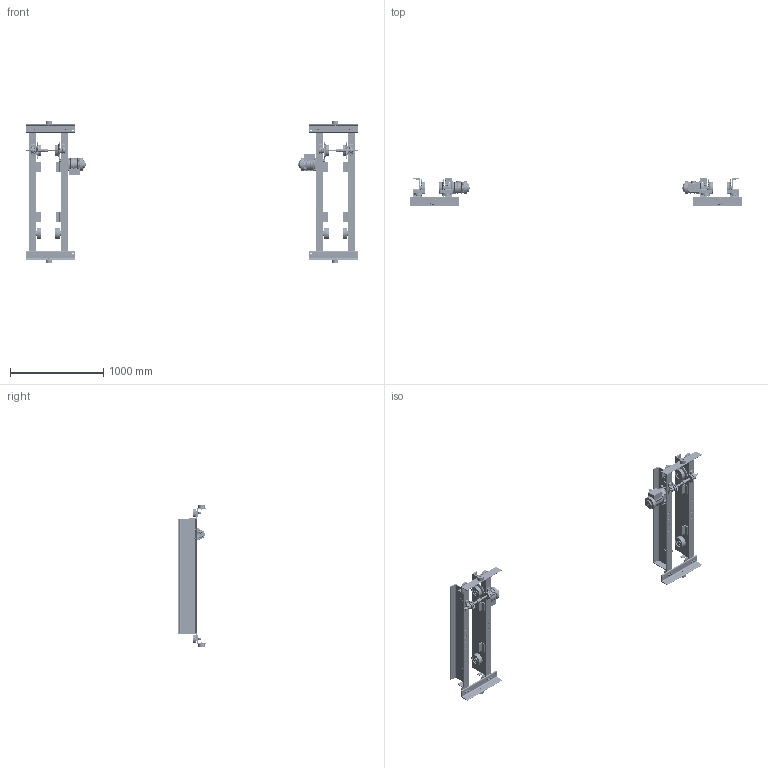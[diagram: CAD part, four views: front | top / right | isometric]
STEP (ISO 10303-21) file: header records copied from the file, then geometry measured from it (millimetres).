
FILE_DESCRIPTION (( 'STEP AP214' ), '1' );
FILE_NAME ('UML-3-0335.STEP', '2026-08-11T15:53:58', ( '' ), ( '' ), 'SwSTEP 2.0', 'SolidWorks 2026', '' );
FILE_SCHEMA (( 'AUTOMOTIVE_DESIGN' ));
Length unit declared in the file: inch
Products named in the file (81): 6234502; G1JE025S9301; 6232602; 9091273_9091273; 6232803_6232803; 62328XXU_6232804U; G1JE025S9401; 9012712_9012712; G1JE025S9310; G1JE025S9701; 62588; 9093433_9093433; 9043411; 9000507; N6QL210116; 62330XXU_6233004U; N6QL210113; 62329XXU_6232904U; 9047262_B27.7M - 3BM1-62; G1JE025S9609; N6QO310E9108_N6QO3101108 DOMESTIC; 62608_8" FLANGE B; 9093101_9093101; MC08-018.7_48; 9093329_9093329; 62587; 9000605; G1JE025S9707; N6QL210115; 5204405_5204405; 9798526_9798526; 62607XX_6260701; 9012519_9012519; 6257004; G1JE025S9610; 6233203; G1CM025L_ROTATED 180 DEGREES; 62607XX_6260702; MS555010_MS555010; UML-3-0335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
Assembly tree (369 placements, depth 4):
  UML-3-0335
    62332XXU_6233202U
      62328XXU_6232804U
        MC08-018.7_48
        6232803_6232803
        6232803_6232803
      6232302  x2
      6232304  x2
      5204405_5204405  x2
      6233203  x2
      6257004
    62333XXU_6233302U  x2
      62329XXU_6232904U
        MC08-018.7_48
        6232803_6232803
        6232803_6232803
      6232302
      6232304
      5204405_5204405
      6233203
    62334XXU_6233402U
      62330XXU_6233004U
        MC08-018.7_48
        6232803_6232803
        6232803_6232803
      6232302  x2
      6232304  x2
      5204405_5204405  x2
      6233203  x2
      6257004
    6234502  x4
      6232602
      9000507
      9047262_B27.7M - 3BM1-62
    6232402  x8
    9047135_9047135  x8
    9093146_9093146  x8
    9012515_9012515  x16
    9093433_9093433  x32
    N6QO3101108_N6QO3101108  x8
      N6QO310E9108_N6QO3101108 DOMESTIC
      9047252_9047252
      9000605
    6232404  x8
    9047125_B27.7M - 3AM1-23  x8
    N6QL210207  x4
    9012514_9012514  x12
    9093101_9093101  x4
    9093424_9093424  x8
    62608_8" FLANGE B  x2
      62607XX_6260701
    62608_8" FLANGE A  x2
      62607XX_6260702
    N6QL5201101  x4
      N6QL520E9101
      9000507
      9047262_B27.7M - 3BM1-62
    N6QL210116  x4
    9012712_9012712  x8
    9093354_9093354  x8
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Bounding box: 3551.73 x 292.1 x 1525.81 mm (x, y, z)
Volume: 35743619.9 mm3; surface area: 7462982.9 mm2
Topology: 394 solids, 490 shells, 25938 faces, 67010 edges, 43184 vertices
Faces by surface type: plane 12464, cylinder 5668, bspline 4146, cone 2610, torus 864, sphere 186
Entity records: 224961 total; most frequent: CARTESIAN_POINT 99522, ORIENTED_EDGE 26086, DIRECTION 23207, EDGE_CURVE 13047, AXIS2_PLACEMENT_3D 8910, VERTEX_POINT 8313, EDGE_LOOP 5602, VECTOR 5387
